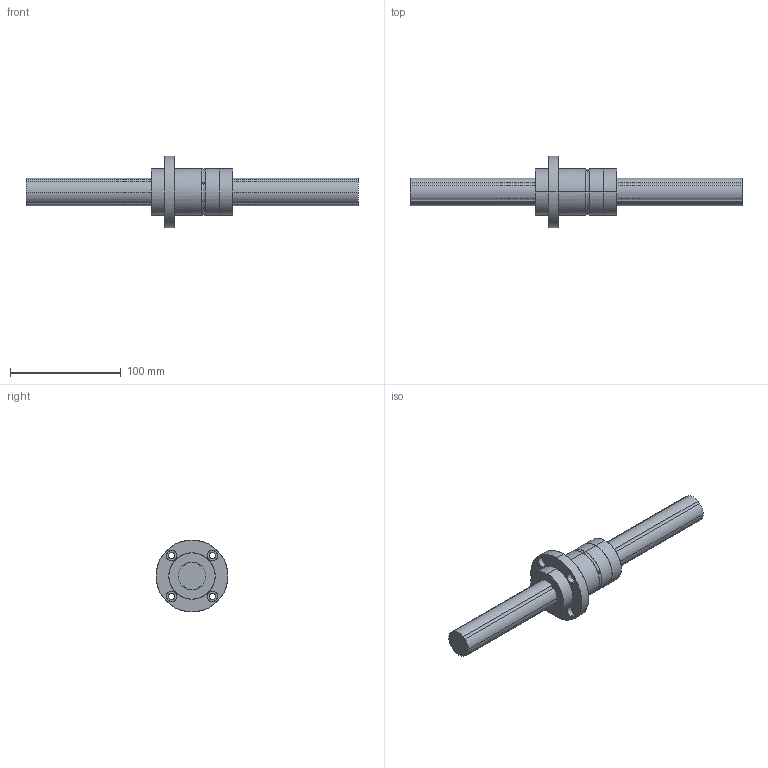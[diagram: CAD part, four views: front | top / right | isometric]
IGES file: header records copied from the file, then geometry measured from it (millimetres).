
Global section: file name: No Iges File Name specified; native system: AutoDesk Inventor R11.0; preprocessor: AutoDesk Inventor Iges Exporter R11.0; author: No Author specified; organization: No Organization specified; date: 20150223.133226; units: millimetre
Bounding box: 300 x 65 x 65 mm (x, y, z)
Surface area: 47893.5 mm2 (no closed solid volume)
Topology: 0 solids, 0 shells, 69 faces, 478 edges, 478 vertices
Faces by surface type: bspline 69
